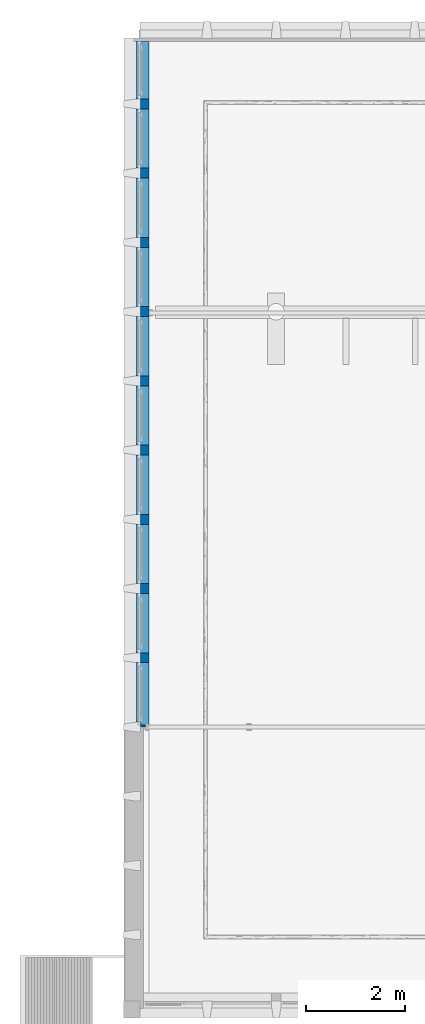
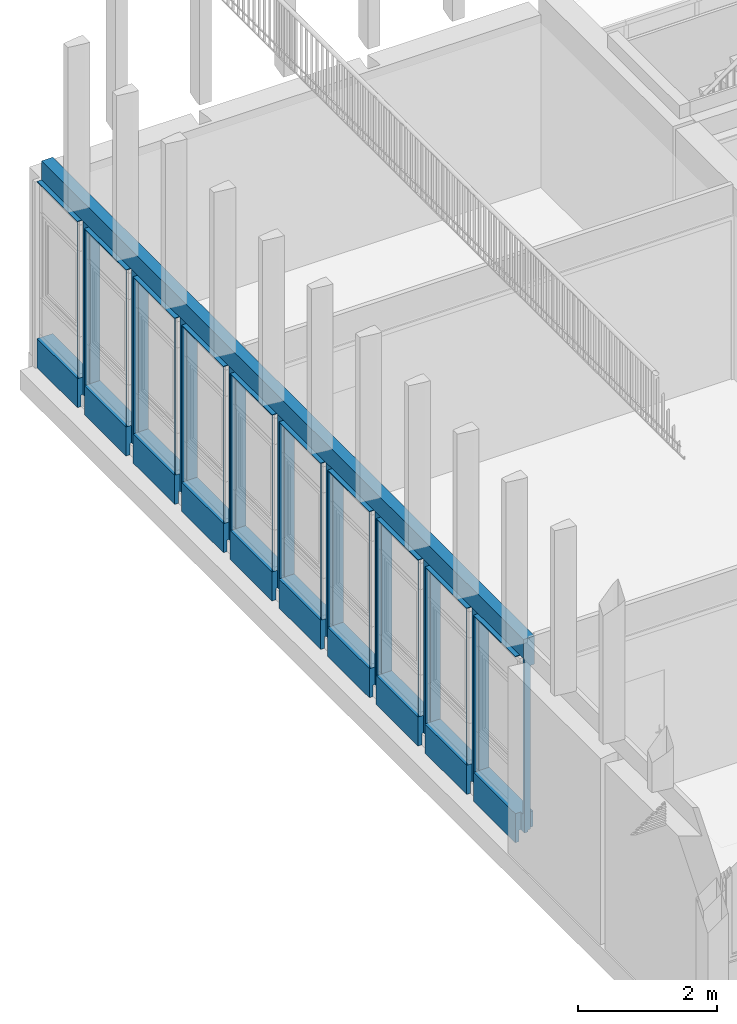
# One storey, part 38 of 65: 1 wall.
"""IFC4 building model written with IfcOpenShell, lengths in metres."""

from ifc_helpers import new_model, entity, si_unit, converted_unit, derived_unit, direction, frame, origin, place, context, subcontext, project, spatial, polygons, material, layer, layer_set, type_object, element, save


model = new_model("IFC4")

# Units and contexts
model_context = context("Model", 3, precision=1e-05, world=origin(), true_north=direction((6.12303176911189e-17, 1.0)))
body_context = subcontext(model_context, "Body", "Model", "MODEL_VIEW")
ifc_project = project(units=[si_unit("LENGTHUNIT", "METRE"), si_unit("AREAUNIT", "SQUARE_METRE"), si_unit("VOLUMEUNIT", "CUBIC_METRE"), converted_unit("PLANEANGLEUNIT", "DEGREE", entity("IfcRatioMeasure", 0.0174532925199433), si_unit("PLANEANGLEUNIT", "RADIAN"), dimensions=[0, 0, 0, 0, 0, 0, 0]), si_unit("MASSUNIT", "GRAM", prefix="KILO"), derived_unit("MASSDENSITYUNIT", [(si_unit("MASSUNIT", "GRAM", prefix="KILO"), 1), (si_unit("LENGTHUNIT", "METRE"), -3)]), derived_unit("MOMENTOFINERTIAUNIT", [(si_unit("LENGTHUNIT", "METRE"), 4)]), si_unit("TIMEUNIT", "SECOND"), si_unit("FREQUENCYUNIT", "HERTZ"), si_unit("THERMODYNAMICTEMPERATUREUNIT", "DEGREE_CELSIUS"), derived_unit("THERMALTRANSMITTANCEUNIT", [(si_unit("MASSUNIT", "GRAM", prefix="KILO"), 1), (si_unit("THERMODYNAMICTEMPERATUREUNIT", "KELVIN"), -1), (si_unit("TIMEUNIT", "SECOND"), -3)]), derived_unit("VOLUMETRICFLOWRATEUNIT", [(si_unit("LENGTHUNIT", "METRE"), 3), (si_unit("TIMEUNIT", "SECOND"), -1)]), si_unit("ELECTRICCURRENTUNIT", "AMPERE"), si_unit("ELECTRICVOLTAGEUNIT", "VOLT"), si_unit("POWERUNIT", "WATT"), si_unit("FORCEUNIT", "NEWTON", prefix="KILO"), si_unit("ILLUMINANCEUNIT", "LUX"), si_unit("LUMINOUSFLUXUNIT", "LUMEN"), si_unit("LUMINOUSINTENSITYUNIT", "CANDELA"), derived_unit("USERDEFINED", [(si_unit("MASSUNIT", "GRAM", prefix="KILO"), -1), (si_unit("LENGTHUNIT", "METRE"), -2), (si_unit("TIMEUNIT", "SECOND"), 3), (si_unit("LUMINOUSFLUXUNIT", "LUMEN"), 1)]), derived_unit("LINEARVELOCITYUNIT", [(si_unit("LENGTHUNIT", "METRE"), 1), (si_unit("TIMEUNIT", "SECOND"), -1)]), si_unit("PRESSUREUNIT", "PASCAL"), derived_unit("USERDEFINED", [(si_unit("LENGTHUNIT", "METRE"), -2), (si_unit("MASSUNIT", "GRAM", prefix="KILO"), 1), (si_unit("TIMEUNIT", "SECOND"), -2)]), derived_unit("LINEARFORCEUNIT", [(si_unit("MASSUNIT", "GRAM", prefix="KILO"), 1), (si_unit("LENGTHUNIT", "METRE"), 1), (si_unit("TIMEUNIT", "SECOND"), -2), (si_unit("LENGTHUNIT", "METRE"), -1)]), derived_unit("PLANARFORCEUNIT", [(si_unit("MASSUNIT", "GRAM", prefix="KILO"), 1), (si_unit("LENGTHUNIT", "METRE"), 1), (si_unit("TIMEUNIT", "SECOND"), -2), (si_unit("LENGTHUNIT", "METRE"), -2)])], contexts=[model_context])

# Site, building, storey
site_placement = place(None, origin())
site = spatial("IfcSite", under=ifc_project, at=site_placement, Name="Default", CompositionType="ELEMENT")
building_placement = place(site_placement, origin())
building = spatial("IfcBuilding", under=site, at=building_placement, Name="HOTEL CONSULAIRE BOULOGNE SUR MER", CompositionType="ELEMENT")
storey_placement = place(building_placement, origin())
storey = spatial("IfcBuildingStorey", under=building, at=storey_placement, Name="Niveau 0", CompositionType="ELEMENT", Elevation=1.31981936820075e-13)

# Wall
ifc_material = material(Name="Mur par défaut", Category="Divers")
ifc_layer = layer(ifc_material, 0.26, Name="Mur par défaut", Category="Divers")
ifc_layer_set = layer_set([ifc_layer], Name="Mur de base:Générique - Ext.260")
wall_type = type_object("IfcWallType", Name="Mur de base:Générique - Ext.260", PredefinedType="NOTDEFINED", material=ifc_layer_set)
wall_placement = place(storey_placement, frame((-13.7490998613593, -24.0150508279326, -0.220000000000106), z_axis=(0.0, 0.0, 1.0), x_axis=(0.0, 1.0, 0.0)))
element("IfcWall", 1, at=wall_placement, inside=storey, type_object=wall_type, material=ifc_layer_set, Name="Mur de base:Générique - Ext.260", ObjectType="Mur de base:Générique - Ext.260", PredefinedType="NOTDEFINED", context=body_context, shape_type="Tessellation", body=[
    polygons([(1.30510051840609, 0.130000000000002, 3.27110477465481), (1.30510051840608, 0.130000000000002, 1.86117787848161e-15), (0.102101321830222, 0.130000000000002, 1.86117787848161e-15), (0.102101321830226, 0.130000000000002, 0.510000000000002), (1.30360092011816, 0.130000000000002, 0.510000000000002), (1.30360092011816, 0.130000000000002, 3.26), (0.102101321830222, 0.130000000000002, 3.26), (0.102101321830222, 0.130000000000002, 3.27110477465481), (2.70510051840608, 0.130000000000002, 3.27110477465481), (2.70510051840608, 0.130000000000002, 1.86117787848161e-15), (1.50210132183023, 0.130000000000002, 1.86117787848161e-15), (1.50210132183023, 0.130000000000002, 3.27110477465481), (1.50360092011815, 0.130000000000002, 3.26), (1.50360092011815, 0.130000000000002, 0.510000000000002), (2.70360092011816, 0.130000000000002, 0.510000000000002), (2.70360092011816, 0.130000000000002, 3.26), (4.10510051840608, 0.130000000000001, 3.27110477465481), (4.10510051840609, 0.130000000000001, 1.86117787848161e-15), (2.90210132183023, 0.130000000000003, 1.86117787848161e-15), (2.90210132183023, 0.130000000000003, 3.27110477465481), (2.90360092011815, 0.130000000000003, 3.26), (2.90360092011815, 0.130000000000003, 0.510000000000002), (4.10360092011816, 0.130000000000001, 0.510000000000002), (4.10360092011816, 0.130000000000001, 3.26), (5.50510051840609, 0.130000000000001, 3.27110477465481), (5.50510051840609, 0.130000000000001, 1.86117787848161e-15), (4.30210132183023, 0.130000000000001, 1.86117787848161e-15), (4.30210132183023, 0.130000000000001, 3.27110477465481), (4.30360092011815, 0.130000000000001, 3.26), (4.30360092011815, 0.130000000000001, 0.510000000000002), (5.50360092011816, 0.130000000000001, 0.510000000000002), (5.50360092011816, 0.130000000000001, 3.26), (6.90510051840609, 0.130000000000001, 3.27110477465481), (6.90510051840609, 0.130000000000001, 1.86117787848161e-15), (5.70210132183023, 0.130000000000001, 1.86117787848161e-15), (5.70210132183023, 0.130000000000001, 3.27110477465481), (5.70360092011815, 0.130000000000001, 3.26), (5.70360092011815, 0.130000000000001, 0.510000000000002), (6.90360092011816, 0.130000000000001, 0.510000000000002), (6.90360092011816, 0.130000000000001, 3.26), (8.30510051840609, 0.130000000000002, 3.27110477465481), (8.30510051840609, 0.130000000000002, 1.86117787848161e-15), (7.10210132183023, 0.130000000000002, 1.86117787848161e-15), (7.10210132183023, 0.130000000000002, 3.27110477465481), (7.10360092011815, 0.130000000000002, 3.26), (7.10360092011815, 0.130000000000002, 0.510000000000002), (8.30360092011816, 0.130000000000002, 0.510000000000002), (8.30360092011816, 0.130000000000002, 3.26), (9.70510051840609, 0.130000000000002, 3.27110477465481), (9.70510051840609, 0.130000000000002, 1.86117787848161e-15), (8.50210132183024, 0.130000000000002, 1.86117787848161e-15), (8.50210132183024, 0.130000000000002, 3.27110477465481), (8.50360092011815, 0.130000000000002, 3.26), (8.50360092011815, 0.130000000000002, 0.510000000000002), (9.70360092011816, 0.130000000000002, 0.510000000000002), (9.70360092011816, 0.130000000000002, 3.26), (11.1051005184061, 0.130000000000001, 3.27110477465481), (11.1051005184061, 0.130000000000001, 1.86117787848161e-15), (9.90210132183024, 0.13, 1.86117787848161e-15), (9.90210132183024, 0.13, 3.27110477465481), (9.90360092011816, 0.13, 3.26), (9.90360092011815, 0.13, 0.510000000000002), (11.1036009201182, 0.130000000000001, 0.510000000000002), (11.1036009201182, 0.130000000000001, 3.26), (12.5051005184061, 0.130000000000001, 3.27110477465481), (12.5051005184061, 0.130000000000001, 1.86117787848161e-15), (11.3021013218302, 0.130000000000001, 1.86117787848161e-15), (11.3021013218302, 0.130000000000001, 3.27110477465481), (11.3036009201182, 0.130000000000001, 3.26), (11.3036009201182, 0.130000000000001, 0.510000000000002), (12.5036009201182, 0.130000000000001, 0.510000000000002), (12.5036009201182, 0.130000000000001, 3.26), (1.30360092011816, 0.120002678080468, 1.86117787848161e-15), (1.30360092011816, 0.065999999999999, 1.86117787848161e-15), (0.103600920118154, 0.0660000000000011, 1.86117787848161e-15), (0.103600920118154, 0.120002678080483, 1.86117787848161e-15), (12.7036009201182, 0.120002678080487, 1.86117787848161e-15), (12.7021013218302, 0.130000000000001, 1.86117787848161e-15), (13.8647266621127, 0.130000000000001, 1.86117787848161e-15), (13.8647266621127, 0.0660000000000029, 1.86117787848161e-15), (12.7036009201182, 0.0660000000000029, 1.86117787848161e-15), (11.3036009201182, 0.120002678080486, 1.86117787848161e-15), (12.5036009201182, 0.120002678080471, 1.86117787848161e-15), (12.5036009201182, 0.0660000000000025, 1.86117787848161e-15), (11.3036009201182, 0.0660000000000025, 1.86117787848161e-15), (9.90360092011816, 0.120002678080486, 1.86117787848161e-15), (11.1036009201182, 0.120002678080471, 1.86117787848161e-15), (11.1036009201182, 0.0660000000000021, 1.86117787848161e-15), (9.90360092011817, 0.066000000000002, 1.86117787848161e-15), (8.50360092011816, 0.120002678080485, 1.86117787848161e-15), (9.70360092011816, 0.12000267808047, 1.86117787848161e-15), (9.70360092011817, 0.0660000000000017, 1.86117787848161e-15), (8.50360092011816, 0.0660000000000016, 1.86117787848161e-15), (7.10360092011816, 0.120002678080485, 1.86117787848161e-15), (8.30360092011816, 0.12000267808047, 1.86117787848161e-15), (8.30360092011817, 0.0660000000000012, 1.86117787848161e-15), (7.10360092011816, 0.0660000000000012, 1.86117787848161e-15), (5.70360092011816, 0.120002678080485, 1.86117787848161e-15), (6.90360092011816, 0.120002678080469, 1.86117787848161e-15), (6.90360092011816, 0.0660000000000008, 1.86117787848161e-15), (5.70360092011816, 0.0660000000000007, 1.86117787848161e-15), (4.30360092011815, 0.120002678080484, 1.86117787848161e-15), (5.50360092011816, 0.120002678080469, 1.86117787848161e-15), (5.50360092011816, 0.0660000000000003, 1.86117787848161e-15), (4.30360092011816, 0.0660000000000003, 1.86117787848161e-15), (2.90360092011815, 0.120002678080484, 1.86117787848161e-15), (4.10360092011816, 0.120002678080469, 1.86117787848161e-15), (4.10360092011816, 0.0659999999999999, 1.86117787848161e-15), (2.90360092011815, 0.066000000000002, 1.86117787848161e-15), (12.5036009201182, 0.120002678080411, 0.510000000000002), (12.5036009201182, 0.0390026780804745, 0.510000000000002), (12.5036009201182, 0.0390026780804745, 0.200000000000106), (12.5036009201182, 0.0660000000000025, 0.200000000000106), (12.7036009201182, 0.120002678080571, 0.510000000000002), (12.7036009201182, 0.0660000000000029, 0.200000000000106), (12.7036009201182, 0.0390026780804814, 0.200000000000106), (12.7036009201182, 0.0390026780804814, 0.510000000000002), (11.1036009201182, 0.120002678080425, 0.510000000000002), (11.1036009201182, 0.0390026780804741, 0.510000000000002), (11.1036009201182, 0.0390026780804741, 0.200000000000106), (11.1036009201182, 0.0660000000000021, 0.200000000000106), (11.3036009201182, 0.120002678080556, 0.510000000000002), (11.3036009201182, 0.0660000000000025, 0.200000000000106), (11.3036009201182, 0.0390026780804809, 0.200000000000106), (11.3036009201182, 0.0390026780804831, 0.510000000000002), (9.70360092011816, 0.120002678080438, 0.510000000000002), (9.70360092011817, 0.0390026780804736, 0.510000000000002), (9.70360092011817, 0.0390026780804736, 0.200000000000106), (9.70360092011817, 0.0660000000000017, 0.200000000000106), (9.90360092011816, 0.120002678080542, 0.510000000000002), (9.90360092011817, 0.066000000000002, 0.200000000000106), (9.90360092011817, 0.0390026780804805, 0.200000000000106), (9.90360092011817, 0.0390026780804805, 0.510000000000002), (8.30360092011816, 0.120002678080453, 0.510000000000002), (8.30360092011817, 0.0390026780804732, 0.510000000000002), (8.30360092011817, 0.0390026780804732, 0.200000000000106), (8.30360092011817, 0.0660000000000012, 0.200000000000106), (8.50360092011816, 0.120002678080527, 0.510000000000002), (8.50360092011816, 0.0660000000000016, 0.200000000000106), (8.50360092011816, 0.0390026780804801, 0.200000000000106), (8.50360092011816, 0.0390026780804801, 0.510000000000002), (6.90360092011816, 0.120002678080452, 0.510000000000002), (6.90360092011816, 0.0390026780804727, 0.510000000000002), (6.90360092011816, 0.0390026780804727, 0.200000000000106), (6.90360092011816, 0.0660000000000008, 0.200000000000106), (7.10360092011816, 0.120002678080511, 0.510000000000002), (7.10360092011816, 0.0660000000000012, 0.200000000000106), (7.10360092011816, 0.0390026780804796, 0.200000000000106), (7.10360092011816, 0.0390026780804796, 0.510000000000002), (5.50360092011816, 0.120002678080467, 0.510000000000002), (5.50360092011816, 0.0390026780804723, 0.510000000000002), (5.50360092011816, 0.0390026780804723, 0.200000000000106), (5.50360092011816, 0.0660000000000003, 0.200000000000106), (5.70360092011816, 0.120002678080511, 0.510000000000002), (5.70360092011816, 0.0660000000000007, 0.200000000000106), (5.70360092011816, 0.0390026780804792, 0.200000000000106), (5.70360092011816, 0.0390026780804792, 0.510000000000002), (4.10360092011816, 0.120002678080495, 0.510000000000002), (4.10360092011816, 0.0390026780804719, 0.510000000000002), (4.10360092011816, 0.0390026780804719, 0.200000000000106), (4.10360092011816, 0.0659999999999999, 0.200000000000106), (4.30360092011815, 0.12000267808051, 0.510000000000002), (4.30360092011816, 0.0660000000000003, 0.200000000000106), (4.30360092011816, 0.0390026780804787, 0.200000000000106), (4.30360092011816, 0.0390026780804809, 0.510000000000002), (2.70360092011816, 0.12000267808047, 0.0), (2.70360092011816, 0.120002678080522, 0.510000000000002), (2.70360092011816, 0.0390026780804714, 0.510000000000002), (2.70360092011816, 0.0390026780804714, 0.200000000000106), (2.70360092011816, 0.0659999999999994, 0.200000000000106), (2.70360092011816, 0.0660000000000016, 1.62430069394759e-15), (2.90360092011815, 0.12000267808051, 0.510000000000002), (2.90360092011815, 0.066000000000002, 0.200000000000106), (2.90360092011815, 0.0390026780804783, 0.200000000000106), (2.90360092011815, 0.0390026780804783, 0.510000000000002), (1.30360092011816, 0.120002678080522, 0.510000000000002), (1.30360092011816, 0.039002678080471, 0.510000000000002), (1.30360092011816, 0.039002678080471, 0.200000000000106), (1.30360092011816, 0.065999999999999, 0.200000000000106), (1.50360092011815, 0.120002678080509, 0.510000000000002), (1.50360092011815, 0.120002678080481, 1.62430069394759e-15), (1.50360092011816, 0.0659999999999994, 1.62430069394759e-15), (1.50360092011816, 0.0659999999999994, 0.200000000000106), (1.50360092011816, 0.0390026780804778, 0.200000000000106), (1.50360092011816, 0.0390026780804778, 0.510000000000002), (0.103600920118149, 0.120002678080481, 0.510000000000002), (0.103600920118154, 0.0660000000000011, 0.200000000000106), (0.103600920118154, 0.0390026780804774, 0.200000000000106), (0.103600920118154, 0.0390026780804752, 0.510000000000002), (1.30360092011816, -0.129999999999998, 0.510000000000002), (1.30360092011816, -0.129999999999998, 3.26), (1.30360092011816, 0.039002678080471, 3.26), (1.50360092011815, -0.129999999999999, 3.26), (1.50360092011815, -0.129999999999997, 0.510000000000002), (1.50360092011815, 0.0390026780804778, 3.26), (2.70360092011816, -0.129999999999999, 0.510000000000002), (2.70360092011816, -0.129999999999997, 3.26), (2.70360092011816, 0.0390026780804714, 3.26), (2.90360092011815, -0.129999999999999, 3.26), (2.90360092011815, -0.129999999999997, 0.510000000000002), (2.90360092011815, 0.0390026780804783, 3.26), (4.10360092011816, -0.129999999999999, 0.510000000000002), (4.10360092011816, -0.129999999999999, 3.26), (4.10360092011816, 0.0390026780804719, 3.26), (4.30360092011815, -0.129999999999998, 3.26), (4.30360092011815, -0.129999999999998, 0.510000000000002), (4.30360092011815, 0.0390026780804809, 3.26), (5.50360092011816, -0.129999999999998, 0.510000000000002), (5.50360092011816, -0.129999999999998, 3.26), (5.50360092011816, 0.0390026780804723, 3.26), (5.70360092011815, -0.129999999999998, 3.26), (5.70360092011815, -0.129999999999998, 0.510000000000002), (5.70360092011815, 0.0390026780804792, 3.26), (6.90360092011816, -0.129999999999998, 0.510000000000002), (6.90360092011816, -0.129999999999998, 3.26), (6.90360092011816, 0.0390026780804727, 3.26), (7.10360092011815, -0.129999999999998, 3.26), (7.10360092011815, -0.129999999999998, 0.510000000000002), (7.10360092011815, 0.0390026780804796, 3.26), (8.30360092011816, -0.129999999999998, 0.510000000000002), (8.30360092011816, -0.129999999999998, 3.26), (8.30360092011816, 0.0390026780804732, 3.26), (8.50360092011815, -0.129999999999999, 3.26), (8.50360092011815, -0.129999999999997, 0.510000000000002), (8.50360092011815, 0.0390026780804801, 3.26), (9.70360092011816, -0.129999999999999, 0.510000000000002), (9.70360092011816, -0.129999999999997, 3.26), (9.70360092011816, 0.0390026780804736, 3.26), (9.90360092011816, -0.129999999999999, 3.26), (9.90360092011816, -0.129999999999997, 0.510000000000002), (9.90360092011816, 0.0390026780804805, 3.26), (11.1036009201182, -0.129999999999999, 0.510000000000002), (11.1036009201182, -0.129999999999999, 3.26), (11.1036009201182, 0.0390026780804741, 3.26), (11.3036009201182, -0.129999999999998, 3.26), (11.3036009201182, -0.129999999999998, 0.510000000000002), (11.3036009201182, 0.0390026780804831, 3.26), (12.5036009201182, -0.129999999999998, 0.510000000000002), (12.5036009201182, -0.129999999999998, 3.26), (12.5036009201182, 0.0390026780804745, 3.26), (12.7036009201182, -0.129999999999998, 3.26), (12.7036009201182, -0.129999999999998, 0.510000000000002), (12.7036009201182, 0.0390026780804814, 3.26), (13.8647266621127, -0.129999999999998, 3.26), (13.8647266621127, 0.130000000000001, 3.26), (13.8647266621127, 0.130000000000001, 3.27110477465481), (13.8647266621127, 0.0548808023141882, 3.27110477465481), (13.8647266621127, 0.0548808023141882, 3.6065269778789), (13.8647266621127, -0.129999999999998, 3.6065269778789), (13.8647266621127, 0.0660000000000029, 0.200000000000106), (0.103600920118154, 0.0548808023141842, 3.27110477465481), (1.30360092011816, 0.0548808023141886, 3.27110477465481), (1.30360092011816, 0.12000267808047, 3.27110477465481), (0.103600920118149, 0.120002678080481, 3.27110477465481), (1.50360092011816, 0.0548808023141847, 3.27110477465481), (2.70360092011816, 0.0548808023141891, 3.27110477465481), (2.70360092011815, 0.12000267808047, 3.27110477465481), (1.50360092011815, 0.120002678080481, 3.27110477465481), (2.90360092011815, 0.0548808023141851, 3.27110477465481), (4.10360092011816, 0.0548808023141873, 3.27110477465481), (4.10360092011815, 0.120002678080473, 3.27110477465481), (2.90360092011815, 0.120002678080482, 3.27110477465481), (4.30360092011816, 0.0548808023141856, 3.27110477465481), (5.50360092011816, 0.0548808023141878, 3.27110477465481), (5.50360092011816, 0.120002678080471, 3.27110477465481), (4.30360092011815, 0.120002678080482, 3.27110477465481), (5.70360092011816, 0.054880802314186, 3.27110477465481), (6.90360092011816, 0.0548808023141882, 3.27110477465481), (6.90360092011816, 0.120002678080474, 3.27110477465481), (5.70360092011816, 0.120002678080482, 3.27110477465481), (7.10360092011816, 0.0548808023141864, 3.27110477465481), (8.30360092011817, 0.0548808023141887, 3.27110477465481), (8.30360092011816, 0.120002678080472, 3.27110477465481), (7.10360092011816, 0.120002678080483, 3.27110477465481), (8.50360092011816, 0.0548808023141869, 3.27110477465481), (9.70360092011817, 0.0548808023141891, 3.27110477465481), (9.70360092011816, 0.120002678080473, 3.27110477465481), (8.50360092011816, 0.120002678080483, 3.27110477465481), (9.90360092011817, 0.0548808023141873, 3.27110477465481), (11.1036009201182, 0.0548808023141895, 3.27110477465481), (11.1036009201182, 0.120002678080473, 3.27110477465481), (9.90360092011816, 0.120002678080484, 3.27110477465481), (11.3036009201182, 0.0548808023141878, 3.27110477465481), (12.5036009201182, 0.05488080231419, 3.27110477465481), (12.5036009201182, 0.120002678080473, 3.27110477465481), (11.3036009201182, 0.120002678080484, 3.27110477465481), (0.0399999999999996, -0.129999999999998, 3.26), (0.0399999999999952, -0.129999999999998, 0.510000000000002), (0.0399999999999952, -0.129999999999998, 0.235000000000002), (13.8647266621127, -0.129999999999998, 0.235000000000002), (13.8647266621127, -0.129999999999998, 0.510000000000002), (0.0, -0.129999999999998, 3.6065269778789), (0.0, -0.129999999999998, 3.11000000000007), (0.0399999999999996, -0.129999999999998, 3.11000000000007), (12.7021013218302, 0.130000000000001, 3.27110477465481), (13.5597266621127, 0.130000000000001, 3.27110477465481), (12.7036009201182, 0.130000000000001, 3.26), (12.7036009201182, 0.130000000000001, 0.510000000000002), (13.8647266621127, 0.130000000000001, 0.510000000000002), (12.7036009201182, 0.0390026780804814, 3.27110477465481), (12.5036009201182, 0.0390026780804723, 3.27110477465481), (12.7036009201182, 0.0548808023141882, 3.27110477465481), (12.5036009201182, 0.120002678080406, 3.26), (12.7036009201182, 0.120002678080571, 3.26), (12.7036009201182, 0.120002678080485, 3.27110477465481), (11.3036009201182, 0.0390026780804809, 3.27110477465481), (11.1036009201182, 0.0390026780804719, 3.27110477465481), (11.1036009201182, 0.120002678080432, 3.26), (11.3036009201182, 0.120002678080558, 3.26), (9.90360092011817, 0.0390026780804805, 3.27110477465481), (9.70360092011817, 0.0390026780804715, 3.27110477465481), (9.70360092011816, 0.120002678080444, 3.26), (9.90360092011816, 0.120002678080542, 3.26), (8.50360092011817, 0.0390026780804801, 3.27110477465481), (8.30360092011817, 0.039002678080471, 3.27110477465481), (8.30360092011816, 0.120002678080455, 3.26), (8.50360092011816, 0.120002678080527, 3.26), (7.10360092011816, 0.0390026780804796, 3.27110477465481), (6.90360092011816, 0.0390026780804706, 3.27110477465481), (6.90360092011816, 0.120002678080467, 3.26), (7.10360092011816, 0.120002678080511, 3.26), (5.70360092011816, 0.0390026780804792, 3.27110477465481), (5.50360092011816, 0.0390026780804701, 3.27110477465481), (5.50360092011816, 0.12000267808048, 3.26), (5.70360092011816, 0.120002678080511, 3.26), (4.30360092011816, 0.0390026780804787, 3.27110477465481), (4.10360092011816, 0.0390026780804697, 3.27110477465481), (4.10360092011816, 0.120002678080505, 3.26), (4.30360092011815, 0.120002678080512, 3.26), (2.90360092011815, 0.0390026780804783, 3.27110477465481), (2.70360092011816, 0.0390026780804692, 3.27110477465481), (2.70360092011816, 0.120002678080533, 3.26), (2.90360092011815, 0.120002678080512, 3.26), (1.50360092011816, 0.0390026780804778, 3.27110477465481), (1.30360092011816, 0.0390026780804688, 3.27110477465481), (1.30360092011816, 0.1200026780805, 3.26), (1.50360092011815, 0.120002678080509, 3.26), (0.103600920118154, 0.0390026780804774, 3.27110477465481), (0.0, 0.0390026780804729, 3.27110477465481), (0.0, 0.054880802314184, 3.27110477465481), (0.103600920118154, 0.0390026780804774, 3.26), (0.0399999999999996, 0.0390026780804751, 3.26), (0.0399999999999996, 0.0390026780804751, 0.510000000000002), (0.0, 0.039002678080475, 0.200000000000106), (0.103600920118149, 0.120002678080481, 3.26), (0.0, -0.0607501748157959, 0.235000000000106), (0.0, -0.0607501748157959, 3.11000000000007), (0.0, -0.0197501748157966, 3.6065269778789), (0.0, 0.054880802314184, 3.6065269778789), (0.0, -0.0197501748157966, 0.200000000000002), (0.0, -0.0197501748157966, 0.235000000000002), (0.0399999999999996, -0.0607501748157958, 3.11000000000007), (0.0399999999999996, -0.0607501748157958, 0.510000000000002), (13.8647266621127, -0.0197501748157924, 0.235000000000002), (13.8647266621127, -0.0197501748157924, 0.200000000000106), (0.0399999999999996, -0.0607501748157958, 0.235000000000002)], [[[2, 3, 4, 5, 6, 7, 8, 1]], [[10, 11, 12, 9], [15, 16, 13, 14]], [[18, 19, 20, 17], [23, 24, 21, 22]], [[26, 27, 28, 25], [31, 32, 29, 30]], [[34, 35, 36, 33], [39, 40, 37, 38]], [[42, 43, 44, 41], [47, 48, 45, 46]], [[50, 51, 52, 49], [55, 56, 53, 54]], [[58, 59, 60, 57], [63, 64, 61, 62]], [[66, 67, 68, 65], [71, 72, 69, 70]], [[299, 79, 78, 295, 296, 246, 245, 297, 298]], [[243, 117, 116, 112, 111, 240, 301, 300]], [[237, 125, 124, 120, 119, 234, 307, 306]], [[231, 133, 132, 128, 127, 228, 311, 310]], [[225, 141, 140, 136, 135, 222, 315, 314]], [[219, 149, 148, 144, 143, 216, 319, 318]], [[213, 157, 156, 152, 151, 210, 323, 322]], [[207, 165, 164, 160, 159, 204, 327, 326]], [[201, 175, 174, 169, 168, 198, 331, 330]], [[195, 185, 184, 178, 177, 192, 335, 334]], [[338, 341, 342, 343, 189, 188, 344, 339]], [[279, 276, 275, 272, 271, 268, 267, 264, 263, 260, 259, 256, 255, 252, 251, 340, 349, 248, 247, 302, 284, 283, 280]], [[74, 75, 76, 3, 2, 73]], [[80, 81, 77, 78, 79]], [[83, 84, 85, 82, 67, 66]], [[87, 88, 89, 86, 59, 58]], [[92, 93, 90, 51, 50, 91]], [[96, 97, 94, 43, 42, 95]], [[100, 101, 98, 35, 34, 99]], [[104, 105, 102, 27, 26, 103]], [[108, 109, 106, 19, 18, 107]], [[171, 182, 181, 11, 10, 166]], [[301, 284, 302, 300]], [[307, 280, 283, 306]], [[311, 276, 279, 310]], [[315, 272, 275, 314]], [[319, 268, 271, 318]], [[323, 264, 267, 322]], [[260, 263, 326, 327]], [[256, 259, 330, 331]], [[252, 255, 334, 335]], [[340, 251, 338, 339]], [[6, 336, 192, 191, 287, 342, 341, 345, 7]], [[16, 332, 198, 197, 193, 195, 337, 13]], [[24, 328, 204, 203, 199, 201, 333, 21]], [[32, 324, 210, 209, 205, 207, 329, 29]], [[40, 320, 216, 215, 211, 213, 325, 37]], [[48, 316, 222, 221, 217, 219, 321, 45]], [[56, 312, 228, 227, 223, 225, 317, 53]], [[64, 308, 234, 233, 229, 231, 313, 61]], [[72, 303, 240, 239, 235, 237, 309, 69]], [[304, 297, 245, 244, 241, 243]], [[289, 356, 346, 351, 354, 290]], [[140, 139, 129, 128, 132, 131, 121, 120, 124, 123, 113, 112, 116, 115, 250, 355, 350, 344, 188, 187, 179, 178, 184, 183, 170, 169, 174, 173, 161, 160, 164, 163, 153, 152, 156, 155, 145, 144, 148, 147, 137, 136]], [[347, 352, 294, 293]], [[113, 84, 83, 110, 111, 112]], [[121, 88, 87, 118, 119, 120]], [[129, 92, 91, 126, 127, 128]], [[137, 96, 95, 134, 135, 136]], [[145, 100, 99, 142, 143, 144]], [[153, 104, 103, 150, 151, 152]], [[161, 108, 107, 158, 159, 160]], [[170, 171, 166, 167, 168, 169]], [[179, 74, 73, 176, 177, 178]], [[194, 185, 195, 193]], [[200, 175, 201, 199]], [[206, 165, 207, 205]], [[212, 157, 213, 211]], [[218, 149, 219, 217]], [[224, 141, 225, 223]], [[230, 133, 231, 229]], [[235, 236, 125, 237]], [[241, 242, 117, 243]], [[245, 246, 247, 248, 249, 244]], [[240, 303, 285, 284, 301]], [[234, 308, 281, 280, 307]], [[228, 312, 277, 276, 311]], [[222, 316, 273, 272, 315]], [[216, 320, 269, 268, 319]], [[210, 324, 265, 264, 323]], [[204, 328, 261, 260, 327]], [[198, 332, 257, 256, 331]], [[192, 336, 253, 252, 335]], [[352, 353, 343, 342, 287, 294]], [[180, 14, 13, 337]], [[172, 22, 21, 333]], [[162, 30, 29, 329]], [[154, 38, 37, 325]], [[146, 46, 45, 321]], [[138, 54, 53, 317]], [[313, 130, 62, 61]], [[122, 70, 69, 309]], [[114, 298, 297, 304]], [[250, 80, 79, 299, 291, 290, 354, 355]], [[115, 116, 117, 114, 77, 81]], [[123, 124, 125, 122, 82, 85]], [[131, 132, 133, 130, 86, 89]], [[139, 140, 141, 138, 90, 93]], [[147, 148, 149, 146, 94, 97]], [[155, 156, 157, 154, 98, 101]], [[163, 164, 165, 162, 102, 105]], [[173, 174, 175, 172, 106, 109]], [[183, 184, 185, 180, 181, 182]], [[187, 188, 189, 186, 76, 75]], [[191, 192, 177, 190]], [[197, 198, 168, 196]], [[203, 204, 159, 202]], [[209, 210, 151, 208]], [[215, 216, 143, 214]], [[221, 222, 135, 220]], [[227, 228, 127, 226]], [[233, 234, 119, 232]], [[239, 240, 111, 238]], [[304, 243, 300, 302, 305]], [[309, 237, 306, 283, 286]], [[313, 231, 310, 279, 282]], [[317, 225, 314, 275, 278]], [[321, 219, 318, 271, 274]], [[325, 213, 322, 267, 270]], [[329, 207, 326, 263, 266]], [[333, 201, 330, 259, 262]], [[337, 195, 334, 255, 258]], [[345, 341, 338, 251, 254]], [[347, 293, 292, 348, 349, 340, 339, 344, 350, 351, 346]], [[336, 6, 5, 176]], [[167, 332, 16, 15]], [[158, 328, 24, 23]], [[324, 32, 31, 150]], [[142, 320, 40, 39]], [[316, 48, 47, 134]], [[312, 56, 55, 126]], [[308, 64, 63, 118]], [[110, 303, 72, 71]], [[353, 356, 289, 288]], [[3, 76, 186, 4]], [[304, 305, 295, 78, 77, 114]], [[68, 67, 82, 122, 309, 286]], [[313, 282, 60, 59, 86, 130]], [[317, 278, 52, 51, 90, 138]], [[321, 274, 44, 43, 94, 146]], [[325, 270, 36, 35, 98, 154]], [[329, 266, 28, 27, 102, 162]], [[333, 262, 20, 19, 106, 172]], [[337, 258, 12, 11, 181, 180]], [[7, 345, 254, 8]], [[115, 81, 80, 250]], [[123, 85, 84, 113]], [[131, 89, 88, 121]], [[137, 147, 97, 96]], [[139, 93, 92, 129]], [[155, 101, 100, 145]], [[163, 105, 104, 153]], [[161, 173, 109, 108]], [[170, 183, 182, 171]], [[288, 289, 290, 291, 242, 241, 244, 249, 292, 293, 294, 287, 191, 190], [194, 193, 197, 196], [200, 199, 203, 202], [206, 205, 209, 208], [212, 211, 215, 214], [218, 217, 221, 220], [224, 223, 227, 226], [230, 229, 233, 232], [236, 235, 239, 238]], [[354, 351, 350, 355]], [[179, 187, 75, 74]], [[347, 346, 356, 353, 352]], [[251, 252, 253, 1, 8, 254]], [[255, 256, 257, 9, 12, 258]], [[259, 260, 261, 17, 20, 262]], [[263, 264, 265, 25, 28, 266]], [[267, 268, 269, 33, 36, 270]], [[271, 272, 273, 41, 44, 274]], [[275, 276, 277, 49, 52, 278]], [[279, 280, 281, 57, 60, 282]], [[283, 284, 285, 65, 68, 286]], [[186, 189, 343, 353, 288, 190, 177, 176, 5, 4]], [[14, 180, 185, 194, 196, 168, 167, 15]], [[22, 172, 175, 200, 202, 159, 158, 23]], [[30, 162, 165, 206, 208, 151, 150, 31]], [[38, 154, 157, 212, 214, 143, 142, 39]], [[46, 146, 149, 218, 220, 135, 134, 47]], [[54, 138, 141, 224, 226, 127, 126, 55]], [[62, 130, 133, 230, 232, 119, 118, 63]], [[70, 122, 125, 236, 238, 111, 110, 71]], [[114, 117, 242, 291, 299, 298]], [[296, 295, 305, 302, 247, 246]], [[348, 292, 249, 248, 349]], [[303, 110, 83, 66, 65, 285]], [[308, 118, 87, 58, 57, 281]], [[312, 126, 91, 50, 49, 277]], [[316, 134, 95, 42, 41, 273]], [[320, 142, 99, 34, 33, 269]], [[324, 150, 103, 26, 25, 265]], [[328, 158, 107, 18, 17, 261]], [[332, 167, 166, 10, 9, 257]], [[336, 176, 73, 2, 1, 253]]], closed=True),
])

save(model, "model.ifc")
